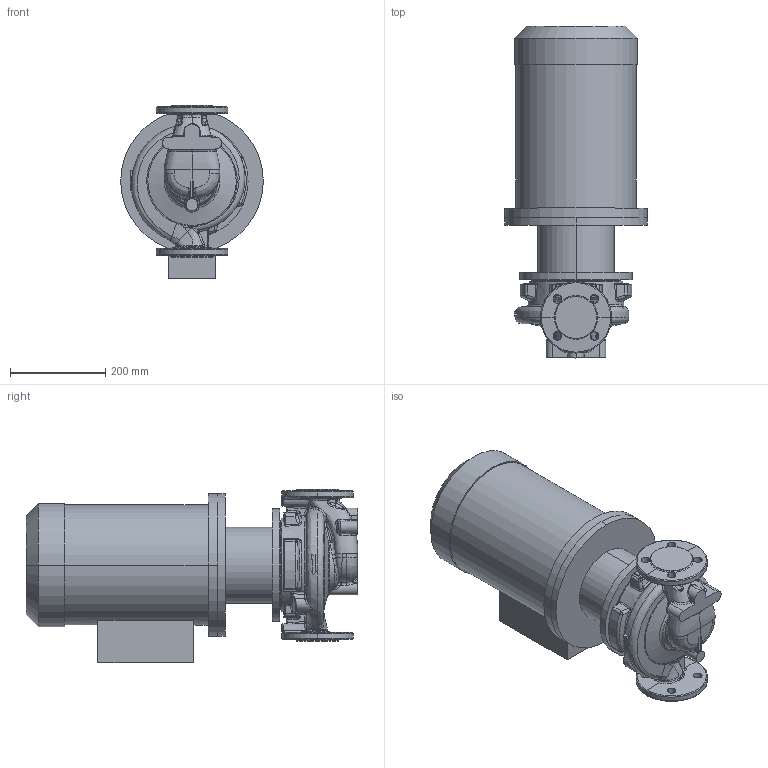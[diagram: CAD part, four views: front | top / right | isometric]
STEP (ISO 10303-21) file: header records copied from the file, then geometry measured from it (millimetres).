
FILE_DESCRIPTION (( 'STEP AP214' ), '1' );
FILE_NAME ('KRL 40-160-2-5,5.STEP', '2026-03-18T06:56:18', ( '' ), ( '' ), 'SwSTEP 2.0', 'SolidWorks 2016', '' );
FILE_SCHEMA (( 'AUTOMOTIVE_DESIGN' ));
Length unit declared in the file: millimetre
Products named in the file (1): KRL 40-160-2-5,5
Bounding box: 300 x 698.3 x 366 mm (x, y, z)
Volume: 31989197.4 mm3; surface area: 1155607.4 mm2
Topology: 4 solids, 4 shells, 713 faces, 1716 edges, 1000 vertices
Faces by surface type: bspline 353, cylinder 126, plane 97, torus 52, cone 45, sphere 40
Entity records: 82362 total; most frequent: CARTESIAN_POINT 60963, ORIENTED_EDGE 3374, DIRECTION 2051, EDGE_CURVE 1687, VERTEX_POINT 1000, AXIS2_PLACEMENT_3D 902, B_SPLINE_CURVE_WITH_KNOTS 828, EDGE_LOOP 747
